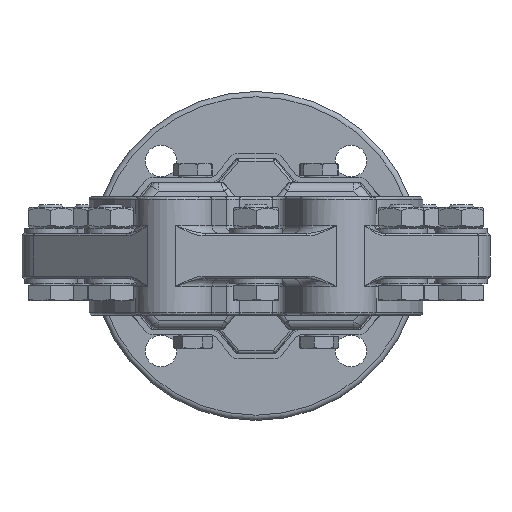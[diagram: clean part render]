
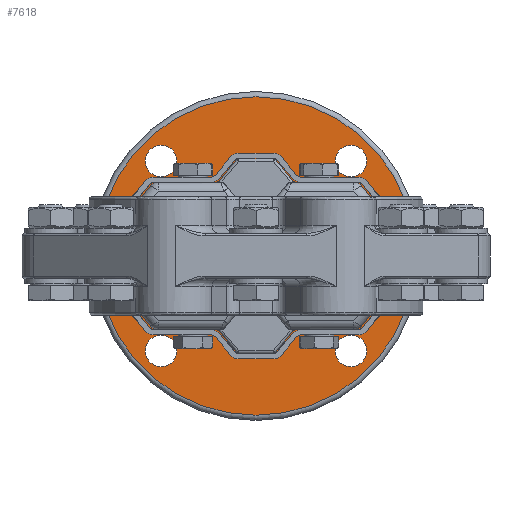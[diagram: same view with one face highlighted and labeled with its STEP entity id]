
A CAD part, front view. The second image highlights one B-rep face of the part: STEP entity #7618.
In plain terms, the highlighted planar face has unit normal (0, -1, 0).
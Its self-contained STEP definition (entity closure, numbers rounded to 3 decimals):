
#7618=ADVANCED_FACE('',(#14419,#14420,#14421,#14422,#14423,#14424,#14425,
#14426,#14427,#14428),#8791,.T.);
#8791=PLANE('',#41339);
#14419=FACE_BOUND('',#16941,.T.);
#14420=FACE_BOUND('',#16942,.T.);
#14421=FACE_BOUND('',#16943,.T.);
#14422=FACE_BOUND('',#16944,.T.);
#14423=FACE_BOUND('',#16945,.T.);
#14424=FACE_BOUND('',#16946,.T.);
#14425=FACE_BOUND('',#16947,.T.);
#14426=FACE_BOUND('',#16948,.T.);
#14427=FACE_BOUND('',#16949,.T.);
#14428=FACE_BOUND('',#16950,.T.);
#16941=EDGE_LOOP('',(#26539));
#16942=EDGE_LOOP('',(#26540));
#16943=EDGE_LOOP('',(#26541));
#16944=EDGE_LOOP('',(#26542));
#16945=EDGE_LOOP('',(#26543));
#16946=EDGE_LOOP('',(#26544));
#16947=EDGE_LOOP('',(#26545));
#16948=EDGE_LOOP('',(#26546));
#16949=EDGE_LOOP('',(#26547));
#16950=EDGE_LOOP('',(#26548));
#26539=ORIENTED_EDGE('',*,*,#36400,.T.);
#26540=ORIENTED_EDGE('',*,*,#36401,.T.);
#26541=ORIENTED_EDGE('',*,*,#36402,.F.);
#26542=ORIENTED_EDGE('',*,*,#36403,.F.);
#26543=ORIENTED_EDGE('',*,*,#36404,.F.);
#26544=ORIENTED_EDGE('',*,*,#36405,.F.);
#26545=ORIENTED_EDGE('',*,*,#36406,.F.);
#26546=ORIENTED_EDGE('',*,*,#36407,.F.);
#26547=ORIENTED_EDGE('',*,*,#36408,.T.);
#26548=ORIENTED_EDGE('',*,*,#36409,.T.);
#31348=VERTEX_POINT('',#71246);
#31349=VERTEX_POINT('',#71248);
#31350=VERTEX_POINT('',#71250);
#31351=VERTEX_POINT('',#71252);
#31352=VERTEX_POINT('',#71254);
#31353=VERTEX_POINT('',#71256);
#31354=VERTEX_POINT('',#71258);
#31355=VERTEX_POINT('',#71260);
#31356=VERTEX_POINT('',#71262);
#31357=VERTEX_POINT('',#71264);
#36400=EDGE_CURVE('',#31348,#31348,#38349,.T.);
#36401=EDGE_CURVE('',#31349,#31349,#38350,.T.);
#36402=EDGE_CURVE('',#31350,#31350,#38351,.T.);
#36403=EDGE_CURVE('',#31351,#31351,#38352,.T.);
#36404=EDGE_CURVE('',#31352,#31352,#38353,.T.);
#36405=EDGE_CURVE('',#31353,#31353,#38354,.T.);
#36406=EDGE_CURVE('',#31354,#31354,#38355,.T.);
#36407=EDGE_CURVE('',#31355,#31355,#38356,.T.);
#36408=EDGE_CURVE('',#31356,#31356,#38357,.T.);
#36409=EDGE_CURVE('',#31357,#31357,#38358,.T.);
#38349=CIRCLE('',#41329,4.5);
#38350=CIRCLE('',#41330,4.5);
#38351=CIRCLE('',#41331,4.5);
#38352=CIRCLE('',#41332,4.5);
#38353=CIRCLE('',#41333,6.);
#38354=CIRCLE('',#41334,6.);
#38355=CIRCLE('',#41335,6.);
#38356=CIRCLE('',#41336,6.);
#38357=CIRCLE('',#41337,27.);
#38358=CIRCLE('',#41338,60.5);
#41329=AXIS2_PLACEMENT_3D('',#71245,#49533,#49534);
#41330=AXIS2_PLACEMENT_3D('',#71247,#49535,#49536);
#41331=AXIS2_PLACEMENT_3D('',#71249,#49537,#49538);
#41332=AXIS2_PLACEMENT_3D('',#71251,#49539,#49540);
#41333=AXIS2_PLACEMENT_3D('',#71253,#49541,#49542);
#41334=AXIS2_PLACEMENT_3D('',#71255,#49543,#49544);
#41335=AXIS2_PLACEMENT_3D('',#71257,#49545,#49546);
#41336=AXIS2_PLACEMENT_3D('',#71259,#49547,#49548);
#41337=AXIS2_PLACEMENT_3D('',#71261,#49549,#49550);
#41338=AXIS2_PLACEMENT_3D('',#71263,#49551,#49552);
#41339=AXIS2_PLACEMENT_3D('',#71265,#49553,#49554);
#49533=DIRECTION('',(0.,1.,0.));
#49534=DIRECTION('',(0.,0.,1.));
#49535=DIRECTION('',(0.,1.,0.));
#49536=DIRECTION('',(1.,0.,0.));
#49537=DIRECTION('',(0.,-1.,0.));
#49538=DIRECTION('',(0.,0.,-1.));
#49539=DIRECTION('',(0.,-1.,0.));
#49540=DIRECTION('',(0.,0.,-1.));
#49541=DIRECTION('',(0.,-1.,0.));
#49542=DIRECTION('',(0.,0.,-1.));
#49543=DIRECTION('',(0.,-1.,0.));
#49544=DIRECTION('',(0.,0.,-1.));
#49545=DIRECTION('',(0.,-1.,0.));
#49546=DIRECTION('',(0.,0.,-1.));
#49547=DIRECTION('',(0.,-1.,0.));
#49548=DIRECTION('',(0.,0.,-1.));
#49549=DIRECTION('',(0.,1.,0.));
#49550=DIRECTION('',(0.,0.,-1.));
#49551=DIRECTION('',(0.,-1.,0.));
#49552=DIRECTION('',(0.,0.,-1.));
#49553=DIRECTION('',(0.,-1.,0.));
#49554=DIRECTION('',(0.,0.,-1.));
#71245=CARTESIAN_POINT('',(-24.749,319.,24.749));
#71246=CARTESIAN_POINT('',(-24.749,319.,29.249));
#71247=CARTESIAN_POINT('',(24.749,319.,24.749));
#71248=CARTESIAN_POINT('',(29.249,319.,24.749));
#71249=CARTESIAN_POINT('',(24.749,319.,-24.749));
#71250=CARTESIAN_POINT('',(24.749,319.,-29.249));
#71251=CARTESIAN_POINT('',(-24.749,319.,-24.749));
#71252=CARTESIAN_POINT('',(-24.749,319.,-29.249));
#71253=CARTESIAN_POINT('',(-36.062,319.,36.062));
#71254=CARTESIAN_POINT('',(-36.062,319.,30.062));
#71255=CARTESIAN_POINT('',(36.062,319.,36.062));
#71256=CARTESIAN_POINT('',(36.062,319.,30.062));
#71257=CARTESIAN_POINT('',(-36.062,319.,-36.062));
#71258=CARTESIAN_POINT('',(-36.062,319.,-42.062));
#71259=CARTESIAN_POINT('',(36.062,319.,-36.062));
#71260=CARTESIAN_POINT('',(36.062,319.,-42.062));
#71261=CARTESIAN_POINT('',(0.,319.,0.));
#71262=CARTESIAN_POINT('',(0.,319.,-27.));
#71263=CARTESIAN_POINT('',(0.,319.,0.));
#71264=CARTESIAN_POINT('',(0.,319.,-60.5));
#71265=CARTESIAN_POINT('',(0.,319.,0.));
